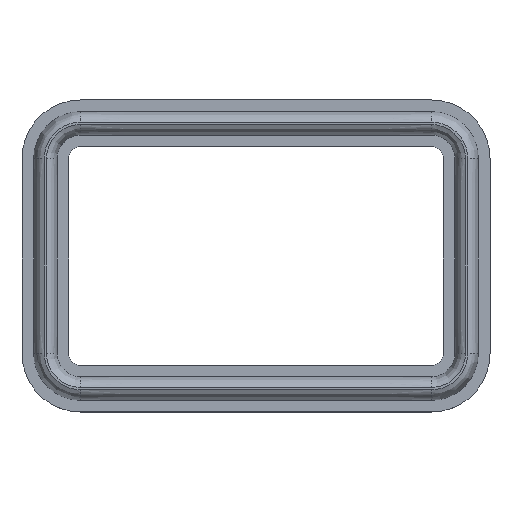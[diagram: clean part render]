
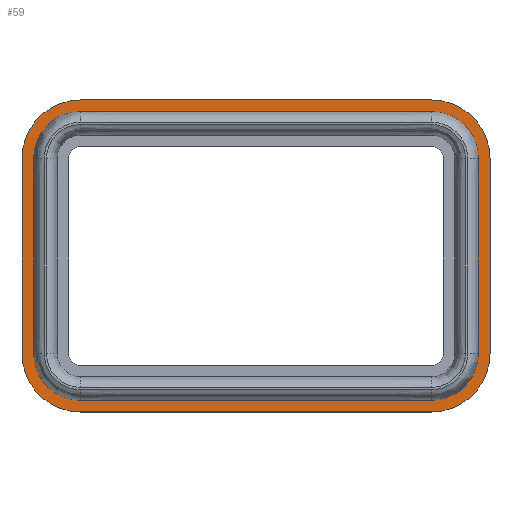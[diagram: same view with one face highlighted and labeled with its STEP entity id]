
A CAD part, top view. The second image highlights one B-rep face of the part: STEP entity #59.
In plain terms, the highlighted planar face has unit normal (0, 0, 1).
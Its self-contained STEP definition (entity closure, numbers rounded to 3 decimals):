
#21 = EDGE_CURVE('',#22,#24,#26,.T.);
#22 = VERTEX_POINT('',#23);
#23 = CARTESIAN_POINT('',(0.,3.,0.8));
#24 = VERTEX_POINT('',#25);
#25 = CARTESIAN_POINT('',(3.,0.,0.8));
#26 = CIRCLE('',#27,3.);
#27 = AXIS2_PLACEMENT_3D('',#28,#29,#30);
#28 = CARTESIAN_POINT('',(3.,3.,0.8));
#29 = DIRECTION('',(0.,0.,1.));
#30 = DIRECTION('',(1.,0.,-0.));
#59 = ADVANCED_FACE('',(#60,#120),#234,.T.);
#60 = FACE_BOUND('',#61,.T.);
#61 = EDGE_LOOP('',(#62,#63,#71,#80,#88,#97,#105,#114));
#62 = ORIENTED_EDGE('',*,*,#21,.T.);
#63 = ORIENTED_EDGE('',*,*,#64,.T.);
#64 = EDGE_CURVE('',#24,#65,#67,.T.);
#65 = VERTEX_POINT('',#66);
#66 = CARTESIAN_POINT('',(21.,0.,0.8));
#67 = LINE('',#68,#69);
#68 = CARTESIAN_POINT('',(3.,0.,0.8));
#69 = VECTOR('',#70,1.);
#70 = DIRECTION('',(1.,0.,-0.));
#71 = ORIENTED_EDGE('',*,*,#72,.T.);
#72 = EDGE_CURVE('',#65,#73,#75,.T.);
#73 = VERTEX_POINT('',#74);
#74 = CARTESIAN_POINT('',(24.,3.,0.8));
#75 = CIRCLE('',#76,3.);
#76 = AXIS2_PLACEMENT_3D('',#77,#78,#79);
#77 = CARTESIAN_POINT('',(21.,3.,0.8));
#78 = DIRECTION('',(0.,0.,1.));
#79 = DIRECTION('',(1.,0.,-0.));
#80 = ORIENTED_EDGE('',*,*,#81,.T.);
#81 = EDGE_CURVE('',#73,#82,#84,.T.);
#82 = VERTEX_POINT('',#83);
#83 = CARTESIAN_POINT('',(24.,13.,0.8));
#84 = LINE('',#85,#86);
#85 = CARTESIAN_POINT('',(24.,3.,0.8));
#86 = VECTOR('',#87,1.);
#87 = DIRECTION('',(-0.,1.,0.));
#88 = ORIENTED_EDGE('',*,*,#89,.T.);
#89 = EDGE_CURVE('',#82,#90,#92,.T.);
#90 = VERTEX_POINT('',#91);
#91 = CARTESIAN_POINT('',(21.,16.,0.8));
#92 = CIRCLE('',#93,3.);
#93 = AXIS2_PLACEMENT_3D('',#94,#95,#96);
#94 = CARTESIAN_POINT('',(21.,13.,0.8));
#95 = DIRECTION('',(0.,0.,1.));
#96 = DIRECTION('',(1.,0.,-0.));
#97 = ORIENTED_EDGE('',*,*,#98,.F.);
#98 = EDGE_CURVE('',#99,#90,#101,.T.);
#99 = VERTEX_POINT('',#100);
#100 = CARTESIAN_POINT('',(3.,16.,0.8));
#101 = LINE('',#102,#103);
#102 = CARTESIAN_POINT('',(3.,16.,0.8));
#103 = VECTOR('',#104,1.);
#104 = DIRECTION('',(1.,0.,-0.));
#105 = ORIENTED_EDGE('',*,*,#106,.T.);
#106 = EDGE_CURVE('',#99,#107,#109,.T.);
#107 = VERTEX_POINT('',#108);
#108 = CARTESIAN_POINT('',(0.,13.,0.8));
#109 = CIRCLE('',#110,3.);
#110 = AXIS2_PLACEMENT_3D('',#111,#112,#113);
#111 = CARTESIAN_POINT('',(3.,13.,0.8));
#112 = DIRECTION('',(0.,0.,1.));
#113 = DIRECTION('',(1.,0.,-0.));
#114 = ORIENTED_EDGE('',*,*,#115,.F.);
#115 = EDGE_CURVE('',#22,#107,#116,.T.);
#116 = LINE('',#117,#118);
#117 = CARTESIAN_POINT('',(0.,3.,0.8));
#118 = VECTOR('',#119,1.);
#119 = DIRECTION('',(-0.,1.,0.));
#120 = FACE_BOUND('',#121,.T.);
#121 = EDGE_LOOP('',(#122,#138,#152,#166,#180,#194,#208,#222));
#122 = ORIENTED_EDGE('',*,*,#123,.F.);
#123 = EDGE_CURVE('',#124,#126,#128,.T.);
#124 = VERTEX_POINT('',#125);
#125 = CARTESIAN_POINT('',(21.,0.6,0.8));
#126 = VERTEX_POINT('',#127);
#127 = CARTESIAN_POINT('',(23.4,3.,0.8));
#128 = B_SPLINE_CURVE_WITH_KNOTS('',8,(#129,#130,#131,#132,#133,#134,
    #135,#136,#137),.UNSPECIFIED.,.F.,.F.,(9,9),(0.,1.),
  .PIECEWISE_BEZIER_KNOTS.);
#129 = CARTESIAN_POINT('',(21.,0.6,0.8));
#130 = CARTESIAN_POINT('',(21.471,0.6,0.8));
#131 = CARTESIAN_POINT('',(21.942,0.706,0.8));
#132 = CARTESIAN_POINT('',(22.386,0.917,0.8));
#133 = CARTESIAN_POINT('',(22.774,1.226,0.8));
#134 = CARTESIAN_POINT('',(23.083,1.614,0.8));
#135 = CARTESIAN_POINT('',(23.294,2.058,0.8));
#136 = CARTESIAN_POINT('',(23.4,2.529,0.8));
#137 = CARTESIAN_POINT('',(23.4,3.,0.8));
#138 = ORIENTED_EDGE('',*,*,#139,.F.);
#139 = EDGE_CURVE('',#140,#124,#142,.T.);
#140 = VERTEX_POINT('',#141);
#141 = CARTESIAN_POINT('',(3.,0.6,0.8));
#142 = B_SPLINE_CURVE_WITH_KNOTS('',8,(#143,#144,#145,#146,#147,#148,
    #149,#150,#151),.UNSPECIFIED.,.F.,.F.,(9,9),(7.,8.),
  .PIECEWISE_BEZIER_KNOTS.);
#143 = CARTESIAN_POINT('',(3.,0.6,0.8));
#144 = CARTESIAN_POINT('',(5.25,0.6,0.8));
#145 = CARTESIAN_POINT('',(7.5,0.6,0.8));
#146 = CARTESIAN_POINT('',(9.75,0.6,0.8));
#147 = CARTESIAN_POINT('',(12.,0.6,0.8));
#148 = CARTESIAN_POINT('',(14.25,0.6,0.8));
#149 = CARTESIAN_POINT('',(16.5,0.6,0.8));
#150 = CARTESIAN_POINT('',(18.75,0.6,0.8));
#151 = CARTESIAN_POINT('',(21.,0.6,0.8));
#152 = ORIENTED_EDGE('',*,*,#153,.F.);
#153 = EDGE_CURVE('',#154,#140,#156,.T.);
#154 = VERTEX_POINT('',#155);
#155 = CARTESIAN_POINT('',(0.6,3.,0.8));
#156 = B_SPLINE_CURVE_WITH_KNOTS('',8,(#157,#158,#159,#160,#161,#162,
    #163,#164,#165),.UNSPECIFIED.,.F.,.F.,(9,9),(6.,7.),
  .PIECEWISE_BEZIER_KNOTS.);
#157 = CARTESIAN_POINT('',(0.6,3.,0.8));
#158 = CARTESIAN_POINT('',(0.6,2.529,0.8));
#159 = CARTESIAN_POINT('',(0.706,2.058,0.8));
#160 = CARTESIAN_POINT('',(0.917,1.614,0.8));
#161 = CARTESIAN_POINT('',(1.226,1.226,0.8));
#162 = CARTESIAN_POINT('',(1.614,0.917,0.8));
#163 = CARTESIAN_POINT('',(2.058,0.706,0.8));
#164 = CARTESIAN_POINT('',(2.529,0.6,0.8));
#165 = CARTESIAN_POINT('',(3.,0.6,0.8));
#166 = ORIENTED_EDGE('',*,*,#167,.F.);
#167 = EDGE_CURVE('',#168,#154,#170,.T.);
#168 = VERTEX_POINT('',#169);
#169 = CARTESIAN_POINT('',(0.6,13.,0.8));
#170 = B_SPLINE_CURVE_WITH_KNOTS('',8,(#171,#172,#173,#174,#175,#176,
    #177,#178,#179),.UNSPECIFIED.,.F.,.F.,(9,9),(5.,6.),
  .PIECEWISE_BEZIER_KNOTS.);
#171 = CARTESIAN_POINT('',(0.6,13.,0.8));
#172 = CARTESIAN_POINT('',(0.6,11.75,0.8));
#173 = CARTESIAN_POINT('',(0.6,10.5,0.8));
#174 = CARTESIAN_POINT('',(0.6,9.25,0.8));
#175 = CARTESIAN_POINT('',(0.6,8.,0.8));
#176 = CARTESIAN_POINT('',(0.6,6.75,0.8));
#177 = CARTESIAN_POINT('',(0.6,5.5,0.8));
#178 = CARTESIAN_POINT('',(0.6,4.25,0.8));
#179 = CARTESIAN_POINT('',(0.6,3.,0.8));
#180 = ORIENTED_EDGE('',*,*,#181,.F.);
#181 = EDGE_CURVE('',#182,#168,#184,.T.);
#182 = VERTEX_POINT('',#183);
#183 = CARTESIAN_POINT('',(3.,15.4,0.8));
#184 = B_SPLINE_CURVE_WITH_KNOTS('',8,(#185,#186,#187,#188,#189,#190,
    #191,#192,#193),.UNSPECIFIED.,.F.,.F.,(9,9),(4.,5.),
  .PIECEWISE_BEZIER_KNOTS.);
#185 = CARTESIAN_POINT('',(3.,15.4,0.8));
#186 = CARTESIAN_POINT('',(2.529,15.4,0.8));
#187 = CARTESIAN_POINT('',(2.058,15.294,0.8));
#188 = CARTESIAN_POINT('',(1.614,15.083,0.8));
#189 = CARTESIAN_POINT('',(1.226,14.774,0.8));
#190 = CARTESIAN_POINT('',(0.917,14.386,0.8));
#191 = CARTESIAN_POINT('',(0.706,13.942,0.8));
#192 = CARTESIAN_POINT('',(0.6,13.471,0.8));
#193 = CARTESIAN_POINT('',(0.6,13.,0.8));
#194 = ORIENTED_EDGE('',*,*,#195,.F.);
#195 = EDGE_CURVE('',#196,#182,#198,.T.);
#196 = VERTEX_POINT('',#197);
#197 = CARTESIAN_POINT('',(21.,15.4,0.8));
#198 = B_SPLINE_CURVE_WITH_KNOTS('',8,(#199,#200,#201,#202,#203,#204,
    #205,#206,#207),.UNSPECIFIED.,.F.,.F.,(9,9),(3.,4.),
  .PIECEWISE_BEZIER_KNOTS.);
#199 = CARTESIAN_POINT('',(21.,15.4,0.8));
#200 = CARTESIAN_POINT('',(18.75,15.4,0.8));
#201 = CARTESIAN_POINT('',(16.5,15.4,0.8));
#202 = CARTESIAN_POINT('',(14.25,15.4,0.8));
#203 = CARTESIAN_POINT('',(12.,15.4,0.8));
#204 = CARTESIAN_POINT('',(9.75,15.4,0.8));
#205 = CARTESIAN_POINT('',(7.5,15.4,0.8));
#206 = CARTESIAN_POINT('',(5.25,15.4,0.8));
#207 = CARTESIAN_POINT('',(3.,15.4,0.8));
#208 = ORIENTED_EDGE('',*,*,#209,.F.);
#209 = EDGE_CURVE('',#210,#196,#212,.T.);
#210 = VERTEX_POINT('',#211);
#211 = CARTESIAN_POINT('',(23.4,13.,0.8));
#212 = B_SPLINE_CURVE_WITH_KNOTS('',8,(#213,#214,#215,#216,#217,#218,
    #219,#220,#221),.UNSPECIFIED.,.F.,.F.,(9,9),(2.,3.),
  .PIECEWISE_BEZIER_KNOTS.);
#213 = CARTESIAN_POINT('',(23.4,13.,0.8));
#214 = CARTESIAN_POINT('',(23.4,13.471,0.8));
#215 = CARTESIAN_POINT('',(23.294,13.942,0.8));
#216 = CARTESIAN_POINT('',(23.083,14.386,0.8));
#217 = CARTESIAN_POINT('',(22.774,14.774,0.8));
#218 = CARTESIAN_POINT('',(22.386,15.083,0.8));
#219 = CARTESIAN_POINT('',(21.942,15.294,0.8));
#220 = CARTESIAN_POINT('',(21.471,15.4,0.8));
#221 = CARTESIAN_POINT('',(21.,15.4,0.8));
#222 = ORIENTED_EDGE('',*,*,#223,.F.);
#223 = EDGE_CURVE('',#126,#210,#224,.T.);
#224 = B_SPLINE_CURVE_WITH_KNOTS('',8,(#225,#226,#227,#228,#229,#230,
    #231,#232,#233),.UNSPECIFIED.,.F.,.F.,(9,9),(1.,2.),
  .PIECEWISE_BEZIER_KNOTS.);
#225 = CARTESIAN_POINT('',(23.4,3.,0.8));
#226 = CARTESIAN_POINT('',(23.4,4.25,0.8));
#227 = CARTESIAN_POINT('',(23.4,5.5,0.8));
#228 = CARTESIAN_POINT('',(23.4,6.75,0.8));
#229 = CARTESIAN_POINT('',(23.4,8.,0.8));
#230 = CARTESIAN_POINT('',(23.4,9.25,0.8));
#231 = CARTESIAN_POINT('',(23.4,10.5,0.8));
#232 = CARTESIAN_POINT('',(23.4,11.75,0.8));
#233 = CARTESIAN_POINT('',(23.4,13.,0.8));
#234 = PLANE('',#235);
#235 = AXIS2_PLACEMENT_3D('',#236,#237,#238);
#236 = CARTESIAN_POINT('',(12.,8.,0.8));
#237 = DIRECTION('',(0.,0.,1.));
#238 = DIRECTION('',(1.,0.,-0.));
